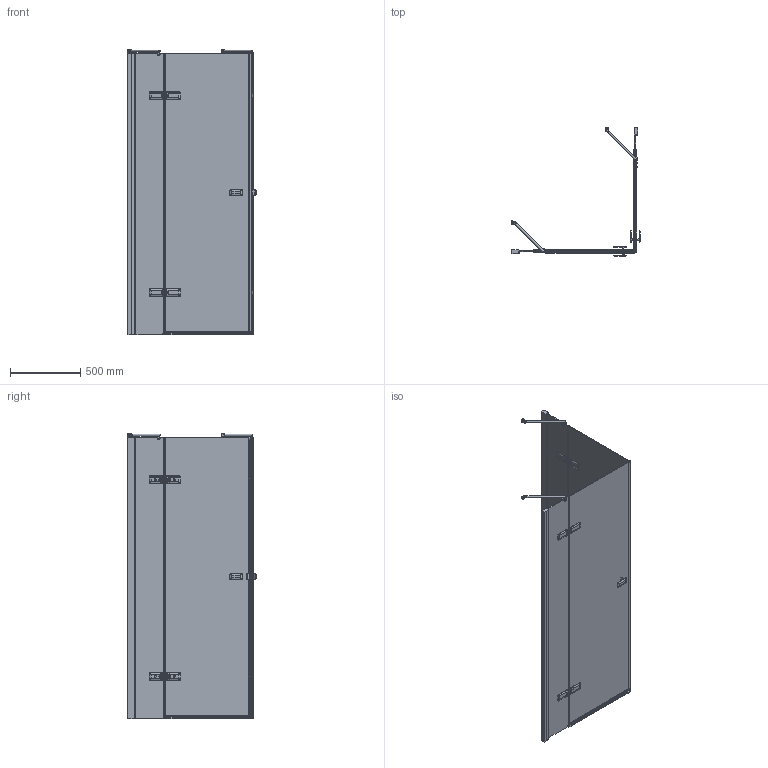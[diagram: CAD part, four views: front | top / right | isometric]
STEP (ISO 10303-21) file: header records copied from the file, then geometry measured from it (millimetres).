
FILE_DESCRIPTION(/* description */ (''),/* implementation_level */ '2;1');
FILE_NAME(/* name */ 'E:\Работа\Сергей\Душевые кабинки\! Работа\!!!!!!!!!!!!!!!!!!!\TREND SQUARE GK-864P\TREND SQUARE GK-864P-3D.stp',/* time_stamp */ '2018-06-24T21:09:00+03:00',/* author */ ('PC'),/* organization */ (''),/* preprocessor_version */ 'ST-DEVELOPER v15.2',/* originating_system */ 'Autodesk Inventor 2014',/* authorisation */ '');
FILE_SCHEMA (('CONFIG_CONTROL_DESIGN'));
Products named in the file (1): TREND SQUARE GK-864P-3D
Bounding box: 912.64 x 912.64 x 2031.5 mm (x, y, z)
Volume: 27593319.9 mm3; surface area: 7635224.6 mm2
Topology: 7 solids, 7 shells, 2524 faces, 6636 edges, 4084 vertices
Faces by surface type: plane 1552, cylinder 581, bspline 273, torus 60, cone 36, sphere 22
Full cylindrical faces by diameter (mm): 6 x4, 9 x16, 12 x2, 13 x4, 15 x2, 20 x4, 26 x2
Entity records: 110590 total; most frequent: CARTESIAN_POINT 47663, ORIENTED_EDGE 12908, DIRECTION 12175, EDGE_CURVE 6454, AXIS2_PLACEMENT_3D 4061, LINE 4053, VECTOR 4053, VERTEX_POINT 4044
